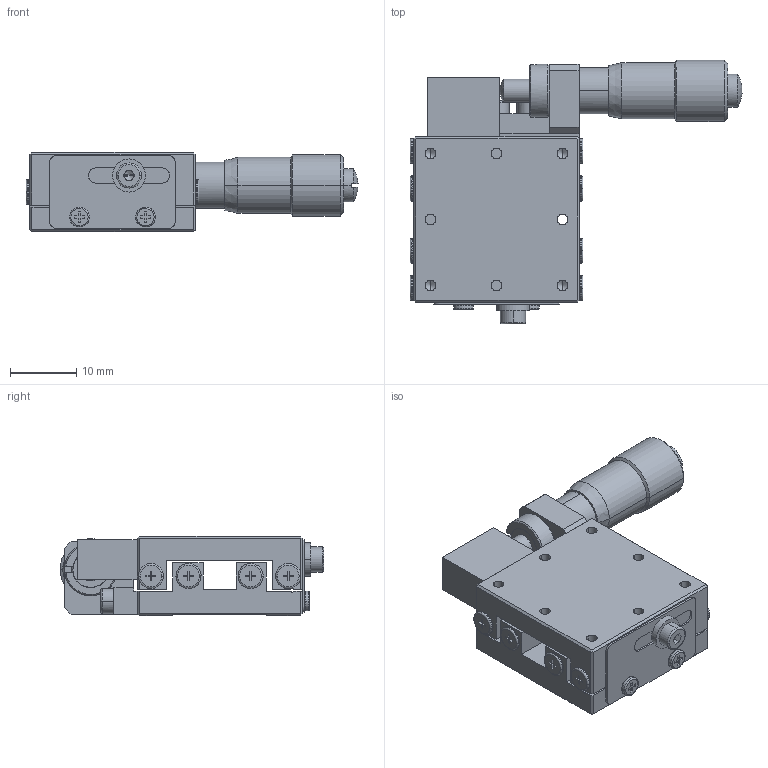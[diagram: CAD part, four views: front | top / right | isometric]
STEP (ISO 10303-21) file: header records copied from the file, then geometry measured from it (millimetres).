
FILE_DESCRIPTION (( 'STEP AP203' ), '1' );
FILE_NAME ('MBX25-R.STEP', '2019-05-02T02:28:34', ( 'User' ), ( 'No' ), 'SwSTEP 2.0', 'SolidWorks 2012', '' );
FILE_SCHEMA (( 'CONFIG_CONTROL_DESIGN' ));
Length unit declared in the file: millimetre
Products named in the file (4): MBX25-R; MT6.5-2-1; LB25R-2; LB25R-1
Assembly tree (3 placements, depth 2):
  MBX25-R
    LB25R-1
    LB25R-2
    MT6.5-2-1
Bounding box: 50.28 x 39.95 x 12 mm (x, y, z)
Volume: 8808.4 mm3; surface area: 8063.6 mm2
Topology: 3 solids, 11 shells, 552 faces, 1417 edges, 911 vertices
Faces by surface type: plane 325, cylinder 137, cone 36, bspline 27, torus 24, sphere 3
Entity records: 20879 total; most frequent: CARTESIAN_POINT 7617, ORIENTED_EDGE 2790, DIRECTION 2426, EDGE_CURVE 1395, VERTEX_POINT 911, LINE 856, VECTOR 856, AXIS2_PLACEMENT_3D 785
